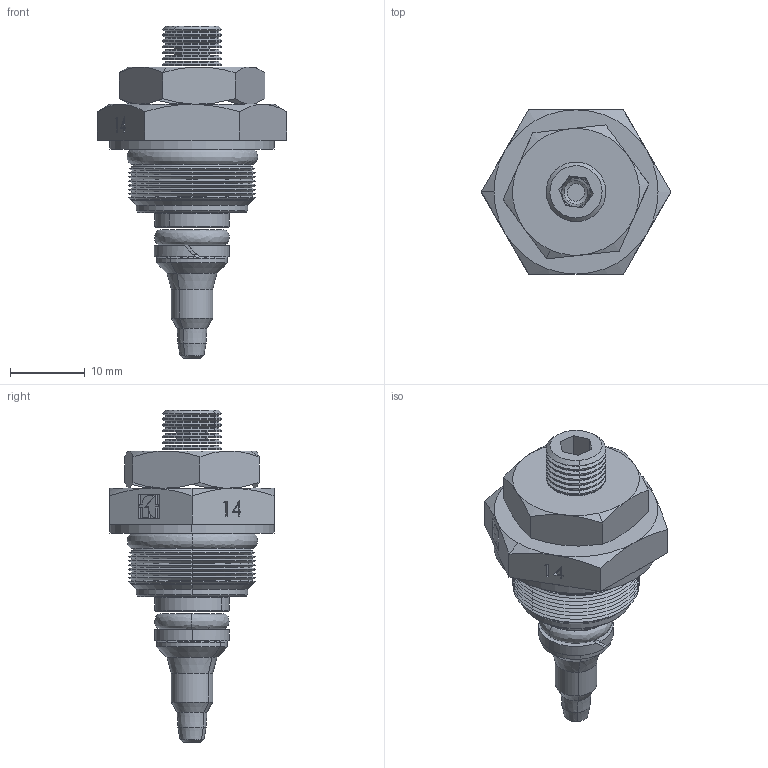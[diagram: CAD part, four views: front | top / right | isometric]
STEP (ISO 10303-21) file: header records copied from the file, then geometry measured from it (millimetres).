
FILE_DESCRIPTION (( 'STEP AP214' ), '1' );
FILE_NAME ('243-2-14.STEP', '2015-05-15T13:50:39', ( '' ), ( '' ), 'SwSTEP 2.0', 'SolidWorks 2014', '' );
FILE_SCHEMA (( 'AUTOMOTIVE_DESIGN' ));
Length unit declared in the file: millimetre
Products named in the file (1): 243-2-14
Bounding box: 25.4 x 22 x 44.5 mm (x, y, z)
Surface area: 3542.7 mm2 (no closed solid volume)
Topology: 0 solids, 13 shells, 294 faces, 729 edges, 446 vertices
Faces by surface type: plane 108, cone 96, cylinder 47, bspline 35, torus 8
Entity records: 13483 total; most frequent: CARTESIAN_POINT 3507, DIRECTION 1365, ORIENTED_EDGE 1349, EDGE_CURVE 729, AXIS2_PLACEMENT_3D 474, VERTEX_POINT 446, LINE 417, VECTOR 417
